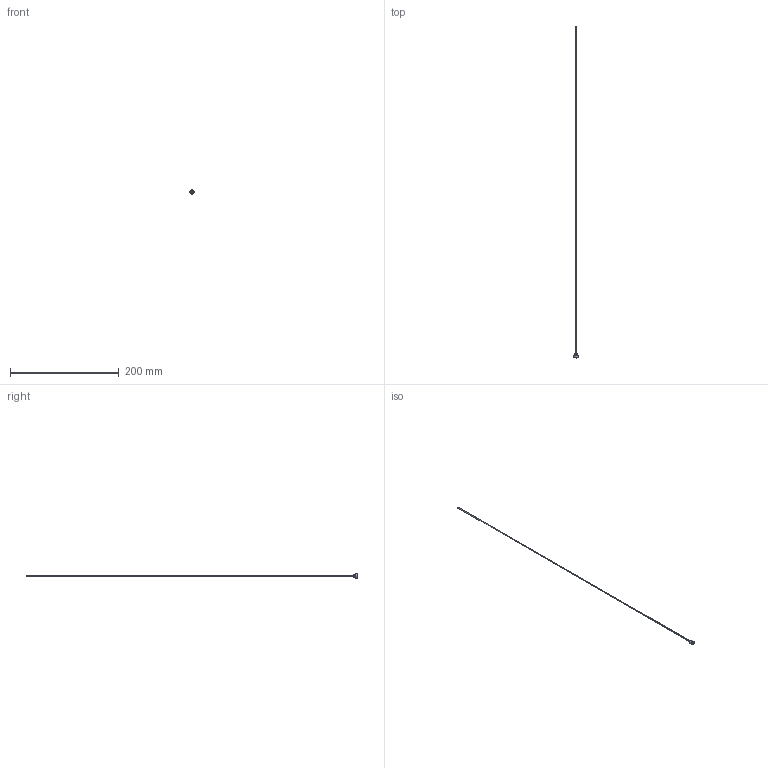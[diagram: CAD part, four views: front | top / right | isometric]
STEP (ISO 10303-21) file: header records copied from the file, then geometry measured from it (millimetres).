
FILE_DESCRIPTION(/* description */ (''),/* implementation_level */ '2;1');
FILE_NAME(/* name */ 'C:/Users/drich/Desktop/PT16-072-24 v2.step',/* time_stamp */ '2019-12-27T15:13:48-06:00',/* author */ (''),/* organization */ (''),/* preprocessor_version */ 'ST-DEVELOPER v18',/* originating_system */ 'Autodesk Translation Framework v8.12.0.6',/* authorisation */ '');
FILE_SCHEMA (('AUTOMOTIVE_DESIGN { 1 0 10303 214 3 1 1 }'));
Length unit declared in the file: inch
Products named in the file (1): PT16-072-24
Bounding box: 7.62 x 609.6 x 7.62 mm (x, y, z)
Volume: 721.5 mm3; surface area: 6647.6 mm2
Topology: 1 solids, 1 shells, 19 faces, 48 edges, 34 vertices
Faces by surface type: plane 11, cylinder 4, torus 2, cone 2
Full cylindrical faces by diameter (mm): 1.524 x1, 1.829 x1, 4.724 x1, 7.616 x1
Entity records: 633 total; most frequent: DIRECTION 112, CARTESIAN_POINT 102, ORIENTED_EDGE 96, EDGE_CURVE 48, AXIS2_PLACEMENT_3D 44, VERTEX_POINT 34, CIRCLE 24, EDGE_LOOP 24
